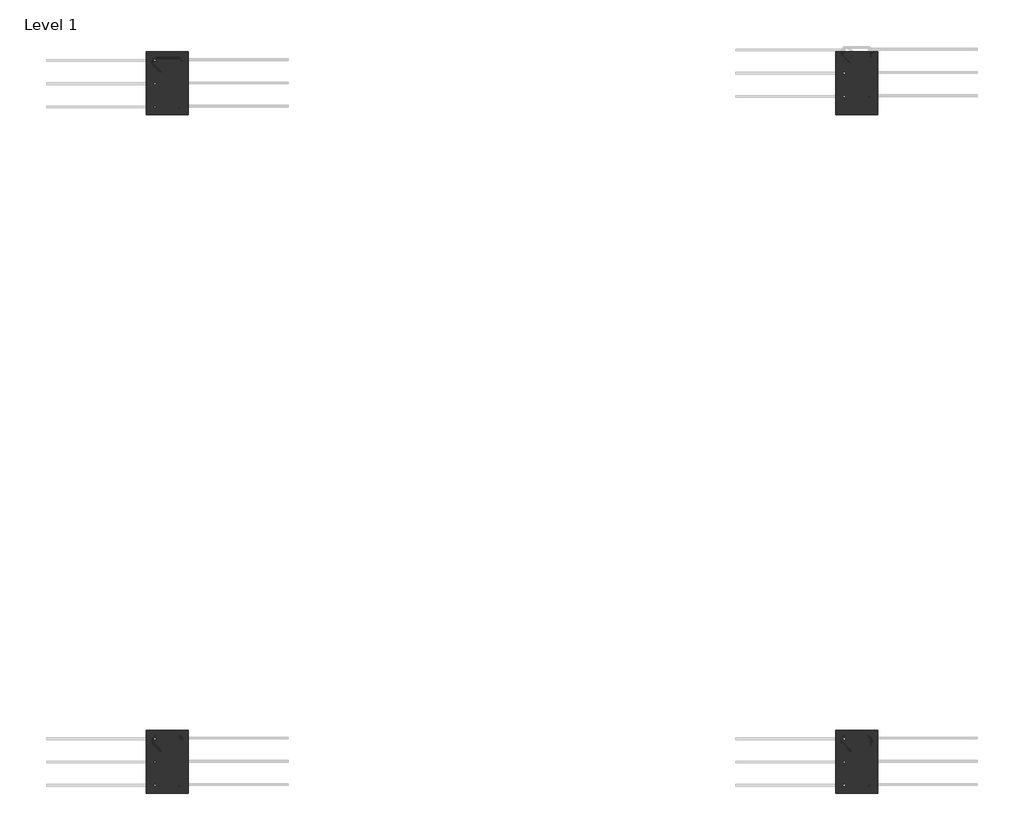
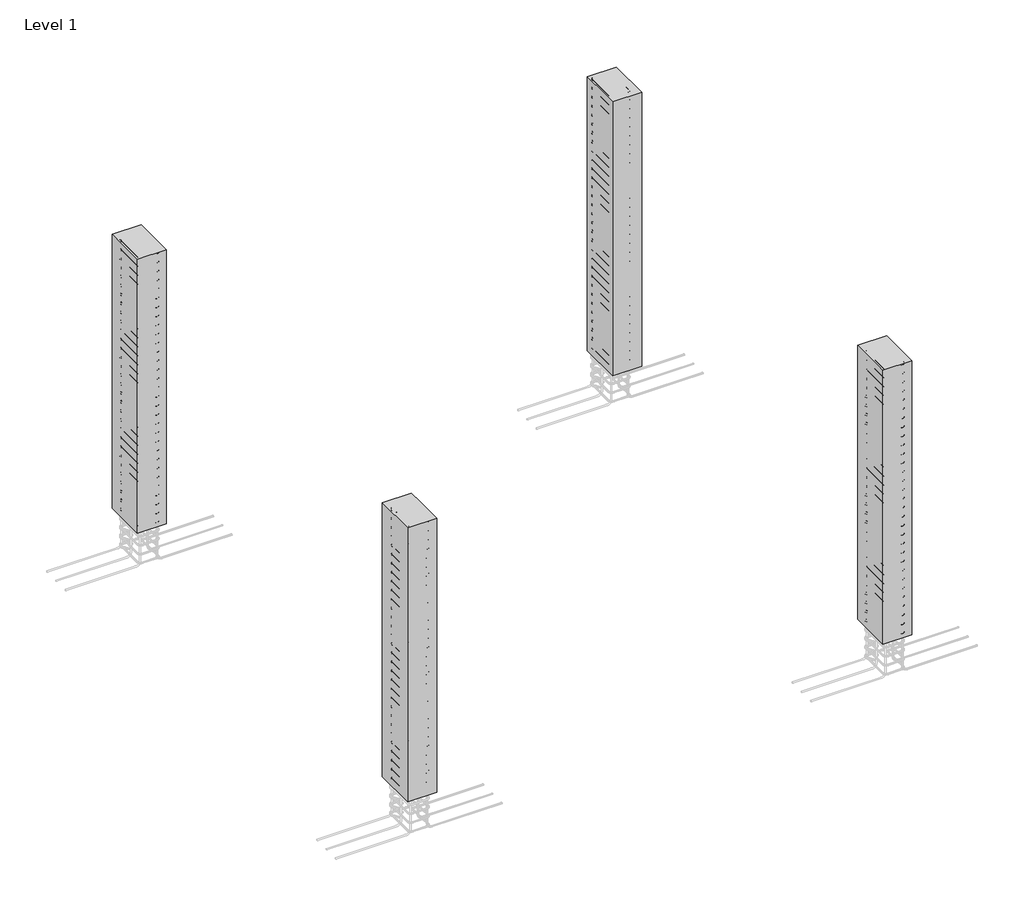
# One storey, part 1 of 2: 4 columns.
"""IFC4 building model written with IfcOpenShell, lengths in millimetres."""

import ifcopenshell
import ifcopenshell.guid

model = None  # the IFC model being written
_history = None  # IfcOwnerHistory: only IFC2X3 demands one
_inside = {}  # id of a spatial element -> (the spatial element, [elements in it])
_under = {}  # id of a project, library or spatial element -> (it, [spatial elements below it])
_declared = {}  # id of a project -> (the project, [libraries it declares])
_typed = {}  # id of a type object -> (the type object, [elements of that type])
_made_of = {}  # id of a material, layer set ... -> (it, [elements and type objects made of it])


def new_model(schema):
    """Start an empty IFC model of exactly this schema.

    Asked for "IFC4X3", IfcOpenShell would pick the latest addendum, in which some entities
    have other attributes; the version numbers below select the first issue.
    IFC2X3 requires an IfcOwnerHistory on every rooted entity: one is made here for all.
    """
    global model, _history
    if schema == "IFC4X3":
        model = ifcopenshell.file(schema_version=(4, 3, 0, 0))
    else:
        model = ifcopenshell.file(schema=schema)
    _inside.clear()
    _under.clear()
    _declared.clear()
    _typed.clear()
    _made_of.clear()
    _history = None
    if model.schema == "IFC2X3":
        org = make("IfcOrganization", Name="unknown")
        user = make(
            "IfcPersonAndOrganization",
            ThePerson=make("IfcPerson", FamilyName="unknown"),
            TheOrganization=org,
        )
        app = make(
            "IfcApplication",
            ApplicationDeveloper=org,
            Version="unknown",
            ApplicationFullName="unknown",
            ApplicationIdentifier="unknown",
        )
        _history = make(
            "IfcOwnerHistory",
            OwningUser=user,
            OwningApplication=app,
            ChangeAction="ADDED",
            CreationDate=0,
        )
    return model


def make(cls, **values):
    """One entity of the class cls with the attributes given. An attribute that is None is left unset."""
    return model.create_entity(
        cls, **{name: value for name, value in values.items() if value is not None}
    )


def rooted(cls, **values):
    """An entity with a GlobalId (a new one), such as an element, a storey or a relation."""
    return make(cls, GlobalId=ifcopenshell.guid.new(), OwnerHistory=_history, **values)


def si_unit(unit_type, name, prefix=None):
    """IfcSIUnit, for example si_unit("LENGTHUNIT", "METRE", prefix="MILLI")."""
    return make("IfcSIUnit", UnitType=unit_type, Prefix=prefix, Name=name)


def assignment(units):
    """IfcUnitAssignment: the units of a project."""
    return None if units is None else make("IfcUnitAssignment", Units=units)


def point(xyz):
    """IfcCartesianPoint."""
    return None if xyz is None else make("IfcCartesianPoint", Coordinates=xyz)


def direction(xyz):
    """IfcDirection."""
    return None if xyz is None else make("IfcDirection", DirectionRatios=xyz)


def frame(location, z_axis=None, x_axis=None):
    """IfcAxis2Placement3D, a coordinate frame: its origin and axes. An axis left out is left unset."""
    return make(
        "IfcAxis2Placement3D",
        Location=point(location),
        Axis=direction(z_axis),
        RefDirection=direction(x_axis),
    )


def origin():
    """The frame at (0, 0, 0) with its axes left unset."""
    return frame((0.0, 0.0, 0.0))


def place(relative_to, where):
    """IfcLocalPlacement: puts the frame where relative to a parent placement (None: the world)."""
    return make(
        "IfcLocalPlacement", PlacementRelTo=relative_to, RelativePlacement=where
    )


def context(
    kind, dimensions, precision=None, world=None, true_north=None, identifier=None
):
    """IfcGeometricRepresentationContext, for example the 3D "Model" context."""
    return make(
        "IfcGeometricRepresentationContext",
        ContextIdentifier=identifier,
        ContextType=kind,
        CoordinateSpaceDimension=dimensions,
        Precision=precision,
        WorldCoordinateSystem=world,
        TrueNorth=true_north,
    )


def project(units=None, contexts=None):
    """IfcProject with its units and contexts."""
    return rooted(
        "IfcProject",
        Name="project",
        RepresentationContexts=contexts,
        UnitsInContext=assignment(units),
    )


def spatial(cls, under=None, at=None, **own):
    """A site, building, storey or space (cls), placed at a placement, below another one or the project."""
    s = rooted(cls, ObjectPlacement=at, **own)
    if under is not None:
        _under.setdefault(under.id(), (under, []))[1].append(s)
    return s


def faces_of(points, faces, orient=None, outer=None):
    """IfcFace entities. A face is a list of loops; a loop is a list of indices into points, from 0.

    orient and outer hold one flag for each loop. By default every Orientation is true, the
    first loop of a face is its IfcFaceOuterBound and the others are IfcFaceBound.
    """
    made = []
    for i, loops in enumerate(faces):
        bounds = []
        for j, loop in enumerate(loops):
            is_outer = j == 0 if outer is None else outer[i][j]
            bounds.append(
                make(
                    "IfcFaceOuterBound" if is_outer else "IfcFaceBound",
                    Bound=make("IfcPolyLoop", Polygon=[points[k] for k in loop]),
                    Orientation=True if orient is None else orient[i][j],
                )
            )
        made.append(make("IfcFace", Bounds=bounds))
    return made


def faceted_brep(points, faces, orient=None, outer=None, voids=None):
    """IfcFacetedBrep: a solid bounded by flat faces; with voids (closed shells), ...WithVoids."""
    shared = [point(p) for p in points]
    hull = make("IfcClosedShell", CfsFaces=faces_of(shared, faces, orient, outer))
    if voids is None:
        return make("IfcFacetedBrep", Outer=hull)
    return make(
        "IfcFacetedBrepWithVoids",
        Outer=hull,
        Voids=[
            make(cls, CfsFaces=faces_of(shared, fs, o, b)) for cls, fs, o, b in voids
        ],
    )


def shape(context_of_items, identifier, shape_type, items):
    """IfcShapeRepresentation: the items that make up one representation, for example the "Body"."""
    return make(
        "IfcShapeRepresentation",
        ContextOfItems=context_of_items,
        RepresentationIdentifier=identifier,
        RepresentationType=shape_type,
        Items=items,
    )


def made_of(thing, what):
    """Note that an element or type object is made of a material, layer set ...; save() writes the relation."""
    if what is not None:
        _made_of.setdefault(what.id(), (what, []))[1].append(thing)
    return thing


def element(
    cls,
    number,
    at=None,
    inside=None,
    cuts=None,
    type_object=None,
    material=None,
    context=None,
    identifier="Body",
    shape_type=None,
    held_by="IfcProductDefinitionShape",
    body=None,
    shapes=None,
    **own,
):
    """One element of the class cls, such as IfcWall. Its Tag is "e" and its number.

    at: its placement. inside: the storey or other place that contains it. cuts: it is an
    opening in that element (IfcRelVoidsElement). A single representation is given by context,
    identifier, shape_type and body (its items); several are given by shapes. held_by: the class
    of the entity that holds the representations. save() writes the other relations.
    """
    e = rooted(cls, Tag="e%d" % number, ObjectPlacement=at, **own)
    if body is not None:
        shapes = [shape(context, identifier, shape_type, body)]
    if shapes is not None:
        e.Representation = make(held_by, Representations=shapes)
    if inside is not None:
        _inside.setdefault(inside.id(), (inside, []))[1].append(e)
    if cuts is not None:
        rooted(
            "IfcRelVoidsElement", RelatingBuildingElement=cuts, RelatedOpeningElement=e
        )
    if type_object is not None:
        _typed.setdefault(type_object.id(), (type_object, []))[1].append(e)
    return made_of(e, material)


def aggregate(whole, parts):
    """IfcRelAggregates: a whole, such as a stair, and the parts it consists of."""
    return rooted("IfcRelAggregates", RelatingObject=whole, RelatedObjects=parts)


def save(model, path):
    """Write the relations noted so far, then the file.

    IfcRelAggregates (storeys below a building ...), IfcRelContainedInSpatialStructure (elements
    in a storey), IfcRelDefinesByType, IfcRelAssociatesMaterial and IfcRelDeclares: one each for
    every whole, place, type object, material and project.
    """
    for whole, parts in _under.values():
        aggregate(whole, parts)
    for where, things in _inside.values():
        rooted(
            "IfcRelContainedInSpatialStructure",
            RelatedElements=things,
            RelatingStructure=where,
        )
    for kind, things in _typed.values():
        rooted("IfcRelDefinesByType", RelatedObjects=things, RelatingType=kind)
    for what, things in _made_of.values():
        rooted("IfcRelAssociatesMaterial", RelatedObjects=things, RelatingMaterial=what)
    for by, libraries in _declared.values():
        rooted("IfcRelDeclares", RelatingContext=by, RelatedDefinitions=libraries)
    model.write(path)


model = new_model("IFC4")

# Units and contexts
model_context = context("Model", 3, world=origin())
ifc_project = project(units=[si_unit("LENGTHUNIT", "METRE", prefix="MILLI")], contexts=[model_context])

# Site, building, storey
site = spatial("IfcSite", under=ifc_project)
building = spatial("IfcBuilding", under=site)
storey = spatial("IfcBuildingStorey", under=building, Name="Level 1", Elevation=0.0)

# Columns
placement = place(None, origin())
element("IfcColumn", 1, ObjectType="Concrete-Rectangular-Column : 12 x 18", at=placement, inside=storey, context=model_context, shape_type="Brep", body=[
    faceted_brep([(-11758.1372644, 14239.8603403, 0.0), (-11758.1372644, 13782.6603403, 0.0), (-12062.9372644, 13782.6603403, 0.0), (-12062.9372644, 14239.8603403, 0.0), (-11758.1372644, 14239.8603403, 3048.0), (-11758.1372644, 13935.0603403, 3048.0), (-11758.1372644, 13782.6603403, 3048.0), (-12062.9372644, 13782.6603403, 3048.0), (-12062.9372644, 14239.8603403, 3048.0)], [[[0, 1, 2, 3]], [[4, 5, 6, 1, 0]], [[6, 7, 2, 1]], [[7, 8, 3, 2]], [[8, 4, 0, 3]], [[4, 8, 7, 6, 5]]]),
])
element("IfcColumn", 2, ObjectType="Concrete-Rectangular-Column : 12 x 18", at=placement, inside=storey, context=model_context, shape_type="Brep", body=[
    faceted_brep([(-6758.1372644, 14239.8603403, 0.0), (-6758.1372644, 13782.6603403, 0.0), (-7062.9372644, 13782.6603403, 0.0), (-7062.9372644, 14239.8603403, 0.0), (-6758.1372644, 14239.8603403, 3048.0), (-6758.1372644, 13782.6603403, 3048.0), (-7062.9372644, 13782.6603403, 3048.0), (-7062.9372644, 13935.0603403, 3048.0), (-7062.9372644, 14239.8603403, 3048.0)], [[[0, 1, 2, 3]], [[4, 5, 1, 0]], [[5, 6, 2, 1]], [[6, 7, 8, 3, 2]], [[8, 4, 0, 3]], [[4, 8, 7, 6, 5]]]),
])
element("IfcColumn", 3, ObjectType="Concrete-Rectangular-Column : 12 x 18", at=placement, inside=storey, context=model_context, shape_type="Brep", body=[
    faceted_brep([(-6758.1372644, 9316.0603403, 0.0), (-6758.1372644, 8858.8603403, 0.0), (-7062.9372644, 8858.8603403, 0.0), (-7062.9372644, 9316.0603403, 0.0), (-6758.1372644, 9316.0603403, 3048.0), (-6758.1372644, 8858.8603403, 3048.0), (-7062.9372644, 8858.8603403, 3048.0), (-7062.9372644, 9163.6603403, 3048.0), (-7062.9372644, 9316.0603403, 3048.0)], [[[0, 1, 2, 3]], [[4, 5, 1, 0]], [[5, 6, 2, 1]], [[6, 7, 8, 3, 2]], [[8, 4, 0, 3]], [[4, 8, 7, 6, 5]]]),
])
element("IfcColumn", 4, ObjectType="Concrete-Rectangular-Column : 12 x 18", at=placement, inside=storey, context=model_context, shape_type="Brep", body=[
    faceted_brep([(-11758.1372644, 9316.0603403, 0.0), (-11758.1372644, 8858.8603403, 0.0), (-12062.9372644, 8858.8603403, 0.0), (-12062.9372644, 9316.0603403, 0.0), (-11758.1372644, 9316.0603403, 3048.0), (-11758.1372644, 9163.6603403, 3048.0), (-11758.1372644, 8858.8603403, 3048.0), (-12062.9372644, 8858.8603403, 3048.0), (-12062.9372644, 9316.0603403, 3048.0)], [[[0, 1, 2, 3]], [[4, 5, 6, 1, 0]], [[6, 7, 2, 1]], [[7, 8, 3, 2]], [[8, 4, 0, 3]], [[4, 8, 7, 6, 5]]]),
])

save(model, "model.ifc")
